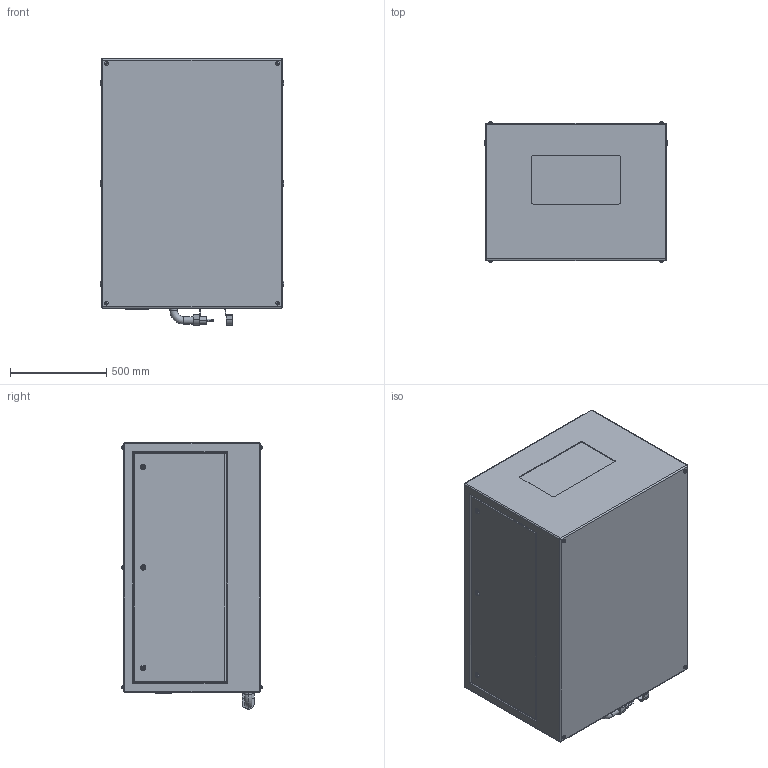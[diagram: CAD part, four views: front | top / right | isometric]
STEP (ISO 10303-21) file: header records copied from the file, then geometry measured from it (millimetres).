
FILE_DESCRIPTION (( 'STEP AP214' ), '1' );
FILE_NAME ('Oasis 59.250.L R02.STEP', '2022-08-27T16:06:09', ( '' ), ( '' ), 'SwSTEP 2.0', 'SolidWorks 2020', '' );
FILE_SCHEMA (( 'AUTOMOTIVE_DESIGN' ));
Length unit declared in the file: inch
Products named in the file (1): Oasis 59.250.L R02
Bounding box: 952.5 x 728.47 x 1384.3 mm (x, y, z)
Volume: 864972625.1 mm3; surface area: 6034067.1 mm2
Topology: 2 solids, 8 shells, 495 faces, 1129 edges, 714 vertices
Faces by surface type: plane 271, cylinder 170, torus 46, bspline 8
Entity records: 18928 total; most frequent: CARTESIAN_POINT 2851, DIRECTION 2459, ORIENTED_EDGE 2242, EDGE_CURVE 1121, AXIS2_PLACEMENT_3D 882, VERTEX_POINT 714, VECTOR 695, LINE 695
